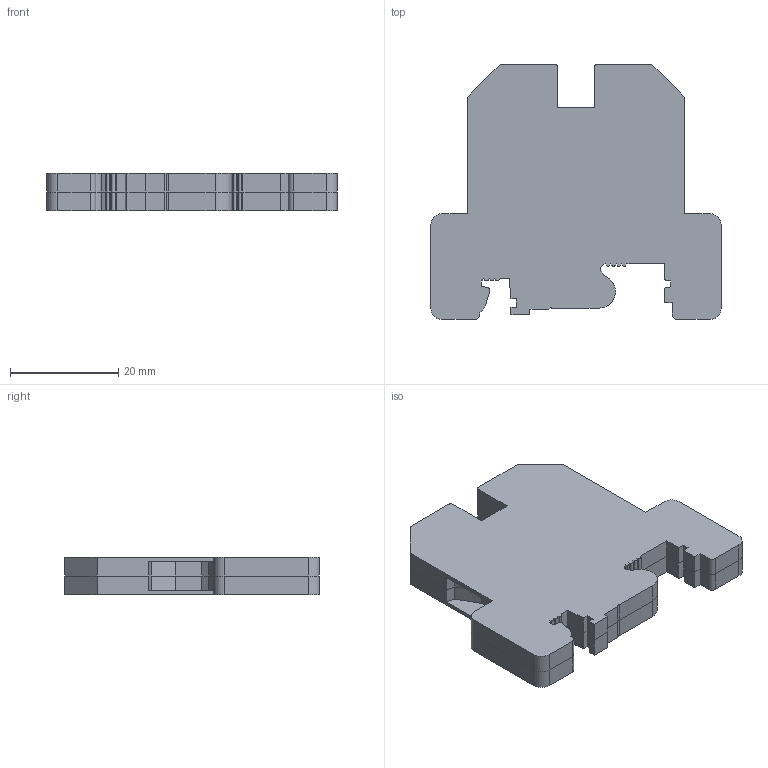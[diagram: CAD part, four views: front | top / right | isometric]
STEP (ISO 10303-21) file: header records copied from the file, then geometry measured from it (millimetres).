
FILE_DESCRIPTION(('STEP AP203'), '1');
FILE_NAME('RBT4PE_1', '2022-08-26T10:54:47', (' '), (' '), 'C3D Converter', 'C3D Toolkit', '');
FILE_SCHEMA(('CONFIG_CONTROL_DESIGN'));
Length unit declared in the file: millimetre
Products named in the file (1): ABK 4 PE
Bounding box: 53.5 x 47 x 7 mm (x, y, z)
Volume: 12573.3 mm3; surface area: 9311.2 mm2
Topology: 2 solids, 2 shells, 200 faces, 584 edges, 388 vertices
Faces by surface type: plane 152, cylinder 48
Entity records: 8218 total; most frequent: CARTESIAN_POINT 1173, ORIENTED_EDGE 1168, DIRECTION 1082, EDGE_CURVE 584, LINE 488, VECTOR 488, VERTEX_POINT 388, AXIS2_PLACEMENT_3D 297
